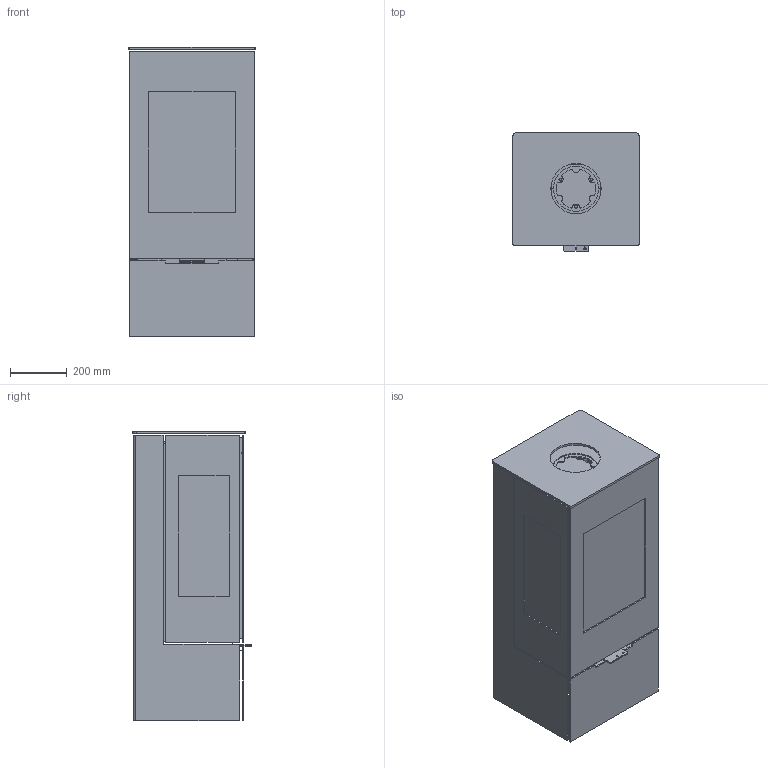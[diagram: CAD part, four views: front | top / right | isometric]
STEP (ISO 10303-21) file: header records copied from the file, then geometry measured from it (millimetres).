
FILE_DESCRIPTION(/* description */ (''),/* implementation_level */ '2;1');
FILE_NAME(/* name */ '10-0131_NEXO 100 Classic Sideglas - Manual.stp',/* time_stamp */ '2023-07-31T13:45:45+02:00',/* author */ ('ksj'),/* organization */ (''),/* preprocessor_version */ 'ST-DEVELOPER v19.2',/* originating_system */ 'Autodesk Inventor 2023',/* authorisation */ '');
FILE_SCHEMA (('AUTOMOTIVE_DESIGN { 1 0 10303 214 3 1 1 }'));
Products named in the file (1): 10-0131_NEXO 100 Classic Sideglas - Manual
Bounding box: 446 x 418.01 x 1025 mm (x, y, z)
Volume: 16844763.8 mm3; surface area: 6880212.1 mm2
Topology: 30 solids, 30 shells, 1959 faces, 5258 edges, 3352 vertices
Faces by surface type: plane 1066, cylinder 758, bspline 69, sphere 56, torus 6, cone 4
Full cylindrical faces by diameter (mm): 20 x2, 110.2 x1, 133 x1, 134 x1, 160 x1, 178 x1
Entity records: 67800 total; most frequent: CARTESIAN_POINT 15815, ORIENTED_EDGE 10516, DIRECTION 10358, EDGE_CURVE 5258, LINE 3652, VECTOR 3652, AXIS2_PLACEMENT_3D 3353, VERTEX_POINT 3351
